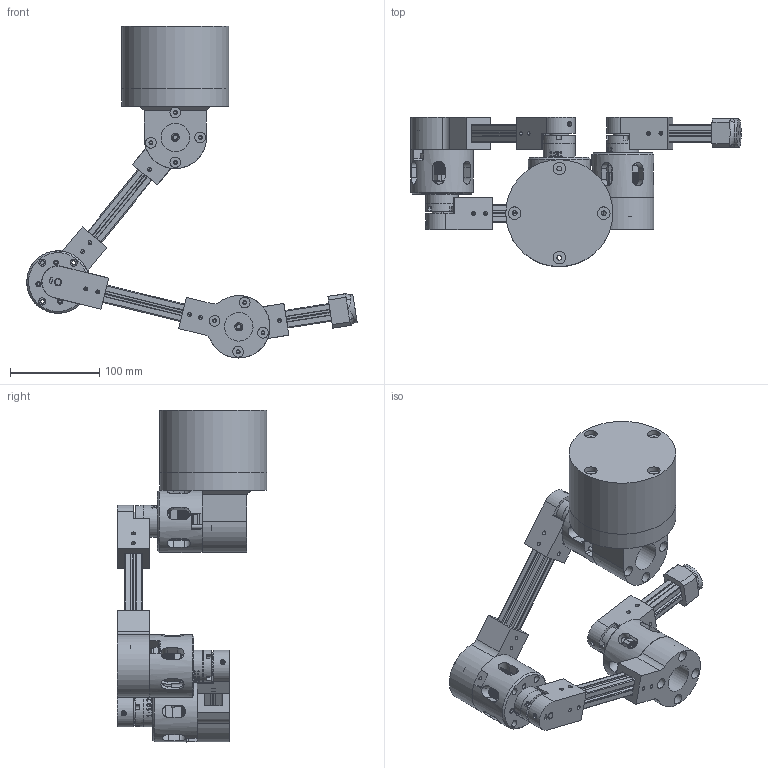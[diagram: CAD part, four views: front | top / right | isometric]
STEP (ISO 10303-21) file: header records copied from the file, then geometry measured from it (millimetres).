
FILE_DESCRIPTION(/* description */ (''),/* implementation_level */ '2;1');
FILE_NAME(/* name */ 'Assieme_bracci_nema_riduttore2.stp',/* time_stamp */ '2026-01-20T12:43:00+01:00',/* author */ ('Ryzen5700u'),/* organization */ (''),/* preprocessor_version */ 'ST-DEVELOPER v20',/* originating_system */ 'Autodesk Inventor 2025',/* authorisation */ '');
FILE_SCHEMA (('AUTOMOTIVE_DESIGN { 1 0 10303 214 3 1 1 }'));
Length unit declared in the file: millimetre
Products named in the file (17): Assieme_bracci_nema_riduttore2; tslot-20x20-3; blocco_nema_riduttore2; blocco_nema_riduttore; ANSI B18.3.1M - M4x0,7 x 50, FSHCSM; riduttore_nema17_3; blocco_base; tslot-20x20-5; blocco_nema_riduttore2_1; NEMA 42SHDC3030Z; blocco_nema; blocco_albero; riduttore_nema17; blocco_nema2; tslot-20x20-4; base_ferro; terminale
Assembly tree (31 placements, depth 3):
  Assieme_bracci_nema_riduttore2
    tslot-20x20-3
    blocco_nema_riduttore2
      NEMA 42SHDC3030Z
      blocco_nema
      ANSI B18.3.1M - M4x0,7 x 50, FSHCSM  x4
      blocco_albero
      riduttore_nema17
    blocco_nema_riduttore
      NEMA 42SHDC3030Z
      blocco_nema
      ANSI B18.3.1M - M4x0,7 x 50, FSHCSM  x4
      blocco_albero
      riduttore_nema17_3
    blocco_base
    tslot-20x20-5
    blocco_nema2  x2
    blocco_nema_riduttore2_1
      NEMA 42SHDC3030Z
      blocco_nema
      blocco_albero
      riduttore_nema17
    tslot-20x20-4
    base_ferro
    terminale
Bounding box: 370.75 x 168.09 x 372.53 mm (x, y, z)
Volume: 2209213.6 mm3; surface area: 448451.1 mm2
Topology: 37 solids, 37 shells, 3532 faces, 8939 edges, 5569 vertices
Faces by surface type: plane 2821, cylinder 489, bspline 83, cone 49, sphere 48, torus 42
Full cylindrical faces by diameter (mm): 3 x12, 3.2 x58, 4 x8, 4.2 x3, 4.3 x56, 5 x3, 5.3 x8, 5.7 x3, 5.8 x12, 6.5 x12, 7 x11, 8 x18, 8.2 x3, 10 x3, 12 x12, 14 x8, 16 x3, 22 x9, 32 x4, 35.8 x3, 36 x6, 36.5 x3, 70 x3, 120 x2
Entity records: 49077 total; most frequent: CARTESIAN_POINT 10355, ORIENTED_EDGE 7734, DIRECTION 7390, EDGE_CURVE 3867, LINE 3100, VECTOR 3100, VERTEX_POINT 2462, AXIS2_PLACEMENT_3D 2145
